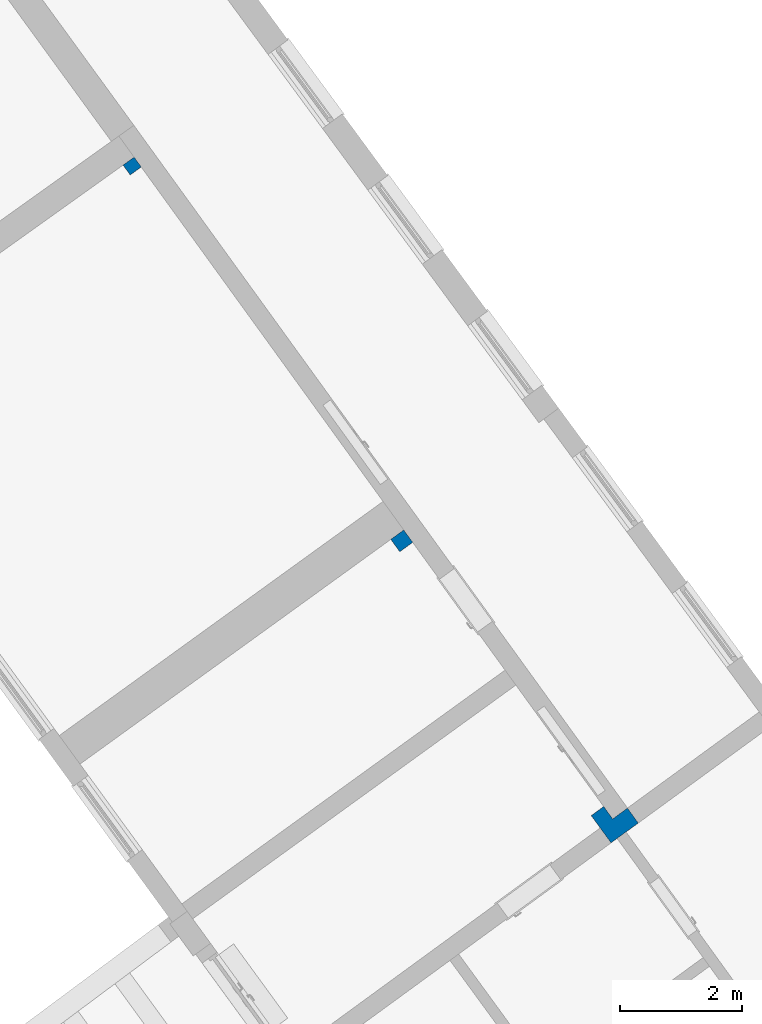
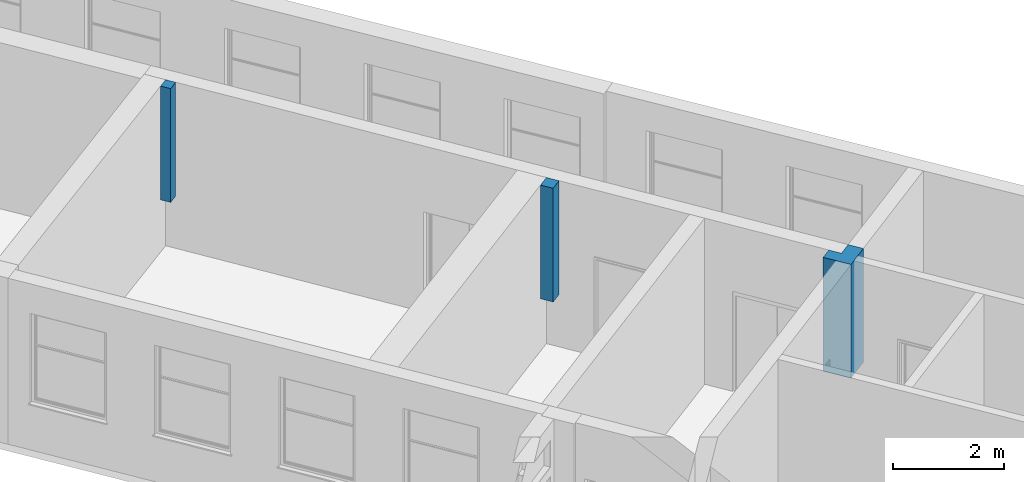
# One storey, part 2 of 157: 3 columns.
"""IFC2X3 building model written with IfcOpenShell, lengths in millimetres."""

from ifc_helpers import new_model, entity, si_unit, converted_unit, derived_unit, direction, frame, origin, place, context, subcontext, project, spatial, polyline, outline, extrude, source, transform, mapped, material, material_list, type_object, type_shapes, element, save


model = new_model("IFC2X3")

# Units and contexts
model_context = context("Model", 3, precision=0.01, world=origin(), true_north=direction((6.123031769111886e-17, 1.0)))
body_context = subcontext(model_context, "Body", "Model", "MODEL_VIEW")
ifc_project = project(units=[si_unit("LENGTHUNIT", "METRE", prefix="MILLI"), si_unit("AREAUNIT", "SQUARE_METRE"), si_unit("VOLUMEUNIT", "CUBIC_METRE"), converted_unit("PLANEANGLEUNIT", "DEGREE", entity("IfcRatioMeasure", 0.017453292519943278), si_unit("PLANEANGLEUNIT", "RADIAN"), dimensions=[0, 0, 0, 0, 0, 0, 0]), si_unit("MASSUNIT", "GRAM", prefix="KILO"), derived_unit("MASSDENSITYUNIT", [(si_unit("MASSUNIT", "GRAM", prefix="KILO"), 1), (si_unit("LENGTHUNIT", "METRE"), -3)]), derived_unit("MOMENTOFINERTIAUNIT", [(si_unit("LENGTHUNIT", "METRE"), 4)]), si_unit("TIMEUNIT", "SECOND"), si_unit("FREQUENCYUNIT", "HERTZ"), si_unit("THERMODYNAMICTEMPERATUREUNIT", "DEGREE_CELSIUS"), derived_unit("THERMALTRANSMITTANCEUNIT", [(si_unit("MASSUNIT", "GRAM", prefix="KILO"), 1), (si_unit("THERMODYNAMICTEMPERATUREUNIT", "KELVIN"), -1), (si_unit("TIMEUNIT", "SECOND"), -3)]), derived_unit("THERMALCONDUCTANCEUNIT", [(si_unit("MASSUNIT", "GRAM", prefix="KILO"), 1), (si_unit("LENGTHUNIT", "METRE"), 1), (si_unit("THERMODYNAMICTEMPERATUREUNIT", "KELVIN"), -1), (si_unit("TIMEUNIT", "SECOND"), -3)]), derived_unit("VOLUMETRICFLOWRATEUNIT", [(si_unit("LENGTHUNIT", "METRE"), 3), (si_unit("TIMEUNIT", "SECOND"), -1)]), derived_unit("MASSFLOWRATEUNIT", [(si_unit("MASSUNIT", "GRAM", prefix="KILO"), 1), (si_unit("TIMEUNIT", "SECOND"), -1)]), derived_unit("ROTATIONALFREQUENCYUNIT", [(si_unit("TIMEUNIT", "SECOND"), -1)]), si_unit("ELECTRICCURRENTUNIT", "AMPERE"), si_unit("ELECTRICVOLTAGEUNIT", "VOLT"), si_unit("POWERUNIT", "WATT"), converted_unit("FORCEUNIT", "KIP", entity("IfcRatioMeasure", 2.088543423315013e-05), si_unit("FORCEUNIT", "NEWTON"), dimensions=[1, 1, -2, 0, 0, 0, 0]), si_unit("ILLUMINANCEUNIT", "LUX"), si_unit("LUMINOUSFLUXUNIT", "LUMEN"), si_unit("LUMINOUSINTENSITYUNIT", "CANDELA"), derived_unit("USERDEFINED", [(si_unit("MASSUNIT", "GRAM", prefix="KILO"), -1), (si_unit("LENGTHUNIT", "METRE"), -2), (si_unit("TIMEUNIT", "SECOND"), 3), (si_unit("LUMINOUSFLUXUNIT", "LUMEN"), 1)]), derived_unit("USERDEFINED", [(si_unit("MASSUNIT", "GRAM", prefix="KILO"), 1), (si_unit("LENGTHUNIT", "METRE"), 3), (si_unit("TIMEUNIT", "SECOND"), -3), (si_unit("ELECTRICCURRENTUNIT", "AMPERE"), -2)]), derived_unit("USERDEFINED", [(si_unit("LENGTHUNIT", "METRE"), 2), (si_unit("TIMEUNIT", "SECOND"), -2)]), derived_unit("SOUNDPOWERUNIT", [(si_unit("MASSUNIT", "GRAM", prefix="KILO"), 1), (si_unit("LENGTHUNIT", "METRE"), 2), (si_unit("TIMEUNIT", "SECOND"), -3)]), derived_unit("SOUNDPRESSUREUNIT", [(si_unit("MASSUNIT", "GRAM", prefix="KILO"), 1), (si_unit("LENGTHUNIT", "METRE"), -1), (si_unit("TIMEUNIT", "SECOND"), -2)]), derived_unit("LINEARVELOCITYUNIT", [(si_unit("LENGTHUNIT", "METRE"), 1), (si_unit("TIMEUNIT", "SECOND"), -1)]), si_unit("PRESSUREUNIT", "PASCAL"), derived_unit("USERDEFINED", [(si_unit("LENGTHUNIT", "METRE"), -2), (si_unit("MASSUNIT", "GRAM", prefix="KILO"), 1), (si_unit("TIMEUNIT", "SECOND"), -2)]), derived_unit("LINEARFORCEUNIT", [(si_unit("MASSUNIT", "GRAM", prefix="KILO"), 1), (si_unit("LENGTHUNIT", "METRE"), 1), (si_unit("TIMEUNIT", "SECOND"), -2), (si_unit("LENGTHUNIT", "METRE"), -1)]), derived_unit("PLANARFORCEUNIT", [(si_unit("MASSUNIT", "GRAM", prefix="KILO"), 1), (si_unit("LENGTHUNIT", "METRE"), 1), (si_unit("TIMEUNIT", "SECOND"), -2), (si_unit("LENGTHUNIT", "METRE"), -2)]), derived_unit("SPECIFICHEATCAPACITYUNIT", [(si_unit("LENGTHUNIT", "METRE"), 2), (si_unit("TIMEUNIT", "SECOND"), -2), (si_unit("THERMODYNAMICTEMPERATUREUNIT", "KELVIN"), -1)]), derived_unit("VAPORPERMEABILITYUNIT", [(si_unit("TIMEUNIT", "SECOND"), 1), (si_unit("LENGTHUNIT", "METRE"), -1)]), derived_unit("DYNAMICVISCOSITYUNIT", [(si_unit("MASSUNIT", "GRAM", prefix="KILO"), 1), (si_unit("LENGTHUNIT", "METRE"), -1), (si_unit("TIMEUNIT", "SECOND"), -1)]), derived_unit("THERMALEXPANSIONCOEFFICIENTUNIT", [(si_unit("THERMODYNAMICTEMPERATUREUNIT", "KELVIN"), -1)])], contexts=[model_context])

# Site, building, storey
site_placement = place(None, frame((0.0, 0.0, 0.0), z_axis=(0.0, 0.0, 1.0), x_axis=(0.8191520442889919, 0.5735764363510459, 0.0)))
site = spatial("IfcSite", under=ifc_project, at=site_placement, Name="Default", CompositionType="ELEMENT")
building_placement = place(site_placement, origin())
building = spatial("IfcBuilding", under=site, at=building_placement, CompositionType="ELEMENT")
storey_placement = place(building_placement, origin())
storey = spatial("IfcBuildingStorey", under=building, at=storey_placement, Name="1.EG +0.00", CompositionType="ELEMENT", Elevation=-4.331468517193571e-12)

# Columns
ifc_material_1 = material(Name="Analytical Wall Surface_CJC")
ifc_material_2 = material(Name="<Unnamed>")
ifc_material_list = material_list([ifc_material_2, ifc_material_1])
column_type_1 = type_object("IfcColumnType", Name="Columns_Rectangular:55x55", PredefinedType="COLUMN", material=ifc_material_list)
shared_shape_1 = source(origin(), body_context, "Body", "SweptSolid", [
    extrude(outline(polyline([(130.35996549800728, -5.859211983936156), (379.67560036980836, -5.859211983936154), (379.28702056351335, 246.05019657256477), (-170.712325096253, 245.20180174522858), (-170.52289757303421, 122.39929228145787), (-170.19021104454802, 122.39915666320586), (-169.42191758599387, -57.60117148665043), (-170.2452405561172, -57.600835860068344), (-169.86393026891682, -304.79754391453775), (131.6339356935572, -304.3324720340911), (130.35996549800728, -5.859211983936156)])), frame((-184273.22145906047, 164573.1975919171, 0.0), z_axis=(0.0, 0.0, 1.0), x_axis=(-0.015240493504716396, 0.9998838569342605, 0.0)), (0.0, 0.0, 1.0), 2500.0),
])
type_shapes(column_type_1, [shared_shape_1])
column_1_placement = place(storey_placement, origin())
element("IfcColumn", 1, at=column_1_placement, inside=storey, type_object=column_type_1, material=ifc_material_1, Name="Columns_Rectangular:55x55", ObjectType="Columns_Rectangular:55x55", context=body_context, shape_type="MappedRepresentation", body=[
    mapped(shared_shape_1, transform((0.0, 0.0, 0.0), scale=1.0)),
])
column_type_2 = type_object("IfcColumnType", Name="Columns_Rectangular:55x55", PredefinedType="COLUMN", material=ifc_material_list)
shared_shape_2 = source(origin(), body_context, "Body", "SweptSolid", [
    extrude(outline(polyline([(-130.14534371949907, -124.89396688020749), (130.36013964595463, -124.89396688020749), (129.9525077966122, 125.10603311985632), (-130.16730372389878, 124.68190064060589), (-130.14534371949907, -124.89396688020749)])), frame((-184486.31147494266, 170397.6905037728, 0.0), z_axis=(0.0, 0.0, 1.0), x_axis=(-0.9998851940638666, -0.015152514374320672, 0.0)), (0.0, 0.0, 1.0), 2500.0),
])
type_shapes(column_type_2, [shared_shape_2])
column_2_placement = place(storey_placement, origin())
element("IfcColumn", 2, at=column_2_placement, inside=storey, type_object=column_type_2, material=ifc_material_1, Name="Columns_Rectangular:55x55", ObjectType="Columns_Rectangular:55x55", context=body_context, shape_type="MappedRepresentation", body=[
    mapped(shared_shape_2, transform((0.0, 0.0, 0.0), scale=1.0)),
])
column_type_3 = type_object("IfcColumnType", Name="Columns_Rectangular:50x55", PredefinedType="COLUMN", material=ifc_material_list)
shared_shape_3 = source(origin(), body_context, "Body", "SweptSolid", [
    extrude(outline(polyline([(-110.38606395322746, -99.58776014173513), (111.71395591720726, -99.58776014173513), (110.22694520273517, 100.41223985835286), (-111.55483716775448, 98.76328042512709), (-110.38606395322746, -99.58776014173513)])), frame((-184582.02234340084, 177935.84086917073, 0.0), z_axis=(0.0, 0.0, 1.0), x_axis=(-0.9999563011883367, -0.009348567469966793, 0.0)), (0.0, 0.0, 1.0), 2500.0),
])
type_shapes(column_type_3, [shared_shape_3])
column_3_placement = place(storey_placement, origin())
element("IfcColumn", 3, at=column_3_placement, inside=storey, type_object=column_type_3, material=ifc_material_1, Name="Columns_Rectangular:50x55", ObjectType="Columns_Rectangular:50x55", context=body_context, shape_type="MappedRepresentation", body=[
    mapped(shared_shape_3, transform((0.0, 0.0, 0.0), scale=1.0)),
])

save(model, "model.ifc")
